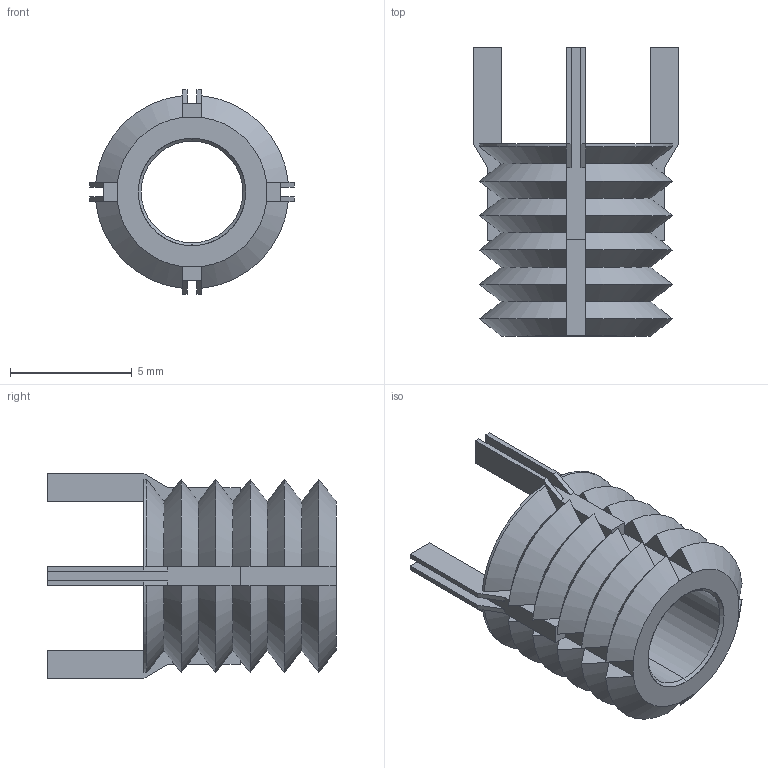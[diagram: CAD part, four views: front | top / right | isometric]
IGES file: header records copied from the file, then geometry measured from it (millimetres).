
Start section: SolidWorks IGES file using analytic representation for surfaces
Global section: file name: C:\Users\IanO\Desktop\TR1575\TR1575_v2_20230420_IGES\TR1575.65900.igs; native system: SolidWorks 2019; preprocessor: SolidWorks 2019; author: IanO; date: 230420.093016; units: inch
Bounding box: 8.38 x 11.81 x 8.38 mm (x, y, z)
Surface area: 572.3 mm2 (no closed solid volume)
Topology: 0 solids, 0 shells, 156 faces, 808 edges, 808 vertices
Faces by surface type: bspline 102, revolution 54
